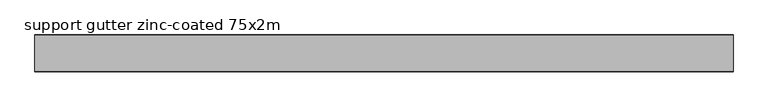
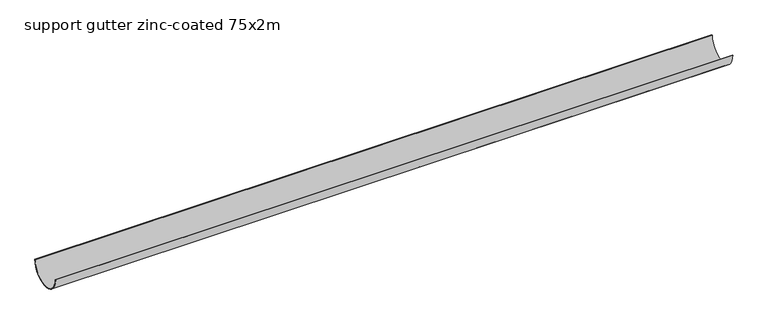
"""IFC4 building model written with IfcOpenShell, lengths in millimetres: valve geometry, PP-R_Support gutter zinc-coated : support gutter zinc-coated 75x2m."""

from ifc_helpers import new_model, si_unit, point, frame, frame_2d, origin, place, context, project, spatial, polyline, circle_curve, trimmed, segment, composite_curve, outline, extrude, source, transform, mapped, element, save


def support_gutter_zinc_coated_75x2m_5a0d65c1(model_context):
    return source(origin(), model_context, "Body", "SweptSolid", [
        extrude(outline(composite_curve([segment(trimmed(circle_curve(frame_2d((0.0, -38.5)), 38.5), [point((-38.5, -38.5))], [point((38.5, -38.5))], True, "CARTESIAN"), True, "CONTINUOUS"), segment(polyline([(38.5, -38.5), (39.5, -38.5)]), True, "CONTINUOUS"), segment(trimmed(circle_curve(frame_2d((0.0, -38.5)), 39.5), [point((39.5, -38.5))], [point((-39.5, -38.5))], False, "CARTESIAN"), True, "CONTINUOUS"), segment(polyline([(-39.5, -38.5), (-38.5, -38.5)]), True, "CONTINUOUS")], self_intersect=False)), frame((9.5156627, 0.0, 0.0), z_axis=(1.0, 0.0, 0.0), x_axis=(0.0, 1.0, 0.0)), (0.0, 0.0, 1.0), 1500.0),
    ])


if __name__ == "__main__":
    model = new_model("IFC4")
    model_context = context("Model", 3, world=origin())
    ifc_project = project(units=[si_unit("LENGTHUNIT", "METRE", prefix="MILLI")], contexts=[model_context])
    site = spatial("IfcSite", under=ifc_project)
    building = spatial("IfcBuilding", under=site)
    placement = place(None, origin())
    support_gutter_zinc_coated_75x2m_shape = support_gutter_zinc_coated_75x2m_5a0d65c1(model_context)
    element("IfcValve", 1, ObjectType="PP-R_Support gutter zinc-coated : support gutter zinc-coated 75x2m", at=placement, inside=building, context=model_context, shape_type="MappedRepresentation", body=[
        mapped(support_gutter_zinc_coated_75x2m_shape, transform((0.0, 0.0, 0.0), x_axis=(1.0, 0.0, 0.0), y_axis=(0.0, 1.0, 0.0), z_axis=(0.0, 0.0, 1.0))),
    ])
    save(model, "model.ifc")
